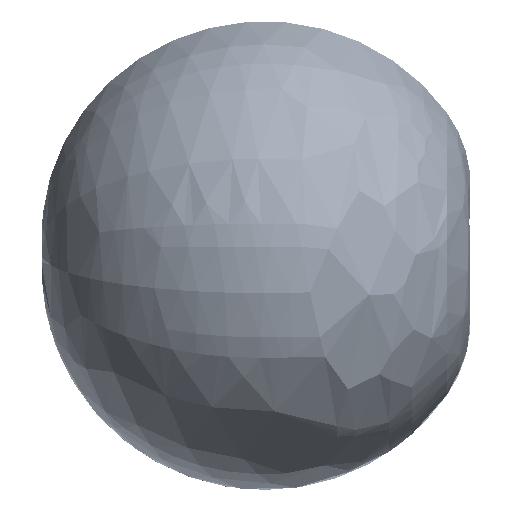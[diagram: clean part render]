
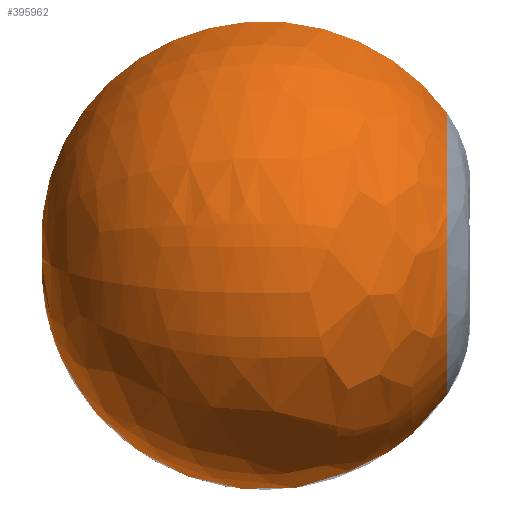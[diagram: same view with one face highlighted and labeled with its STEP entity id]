
A CAD part, left-side view. The second image highlights one B-rep face of the part: STEP entity #395962.
In plain terms, the highlighted free-form (B-spline) face has degree [3, 3] with [7, 4] control points.
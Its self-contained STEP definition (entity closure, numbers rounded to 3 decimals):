
#395788=CARTESIAN_POINT('',(-38.564,537.,
143.923));
#395789=DIRECTION('',(-0.966,0.,-0.259));
#395790=DIRECTION('',(-0.148,-0.819,0.554));
#395791=AXIS2_PLACEMENT_3D('',#395788,#395789,#395790);
#395813=CARTESIAN_POINT('',(0.,-1228.922,
0.));
#395814=DIRECTION('',(0.,1.,0.));
#395815=DIRECTION('',(0.259,0.,0.966));
#395816=AXIS2_PLACEMENT_3D('',#395813,#395814,#395815);
#395818=CARTESIAN_POINT('',(0.,-1228.923,
0.));
#395819=DIRECTION('',(0.,1.,0.));
#395820=DIRECTION('',(0.259,0.,-0.966));
#395821=AXIS2_PLACEMENT_3D('',#395818,#395819,#395820);
#395823=CARTESIAN_POINT('',(38.564,537.,
143.923));
#395824=DIRECTION('',(0.966,0.,-0.259));
#395825=DIRECTION('',(-0.018,0.998,-0.067));
#395826=AXIS2_PLACEMENT_3D('',#395823,#395824,#395825);
#395876=CARTESIAN_POINT('',(-358.597,-1228.922,
1338.302));
#395877=CARTESIAN_POINT('',(0.,2687.638,
0.));
#395878=VERTEX_POINT('',#395876);
#395879=VERTEX_POINT('',#395877);
#395890=CARTESIAN_POINT('',(358.597,-1228.923,
-1338.3));
#395891=VERTEX_POINT('',#395890);
#395892=CARTESIAN_POINT('',(358.597,-1228.922,
1338.302));
#395893=VERTEX_POINT('',#395892);
#395924=CARTESIAN_POINT('',(188.744,-1290.818,
1278.173));
#395925=CARTESIAN_POINT('',(537.679,202.905,
3641.152));
#395926=CARTESIAN_POINT('',(410.561,2882.352,
2780.316));
#395927=CARTESIAN_POINT('',(0.,2687.638,
0.));
#395928=CARTESIAN_POINT('',(2412.497,-1290.818,
949.798));
#395929=CARTESIAN_POINT('',(6872.52,202.905,
2705.704));
#395930=CARTESIAN_POINT('',(5247.729,2882.352,
2066.025));
#395931=CARTESIAN_POINT('',(0.,2687.638,
0.));
#395932=CARTESIAN_POINT('',(2247.868,-1290.818,
-1292.033));
#395933=CARTESIAN_POINT('',(6403.537,202.905,
-3680.636));
#395934=CARTESIAN_POINT('',(4889.622,2882.352,
-2810.466));
#395935=CARTESIAN_POINT('',(0.,2687.638,
0.));
#395936=CARTESIAN_POINT('',(0.,-1290.818,
-1292.033));
#395937=CARTESIAN_POINT('',(0.,202.905,
-3680.636));
#395938=CARTESIAN_POINT('',(0.,2882.352,
-2810.466));
#395939=CARTESIAN_POINT('',(0.,2687.638,
0.));
#395940=CARTESIAN_POINT('',(-2247.868,-1290.818,
-1292.033));
#395941=CARTESIAN_POINT('',(-6403.537,202.905,
-3680.636));
#395942=CARTESIAN_POINT('',(-4889.622,2882.352,
-2810.466));
#395943=CARTESIAN_POINT('',(0.,2687.638,
0.));
#395944=CARTESIAN_POINT('',(-2412.497,-1290.818,
949.798));
#395945=CARTESIAN_POINT('',(-6872.52,202.905,
2705.704));
#395946=CARTESIAN_POINT('',(-5247.729,2882.352,
2066.025));
#395947=CARTESIAN_POINT('',(0.,2687.638,
0.));
#395948=CARTESIAN_POINT('',(-188.744,-1290.818,
1278.173));
#395949=CARTESIAN_POINT('',(-537.679,202.905,
3641.152));
#395950=CARTESIAN_POINT('',(-410.561,2882.352,
2780.316));
#395951=CARTESIAN_POINT('',(0.,2687.638,
0.));
#395952=(BOUNDED_SURFACE()B_SPLINE_SURFACE(3,3,((#395924,#395925,#395926,
#395927),(#395928,#395929,#395930,#395931),(#395932,#395933,#395934,#395935),(
#395936,#395937,#395938,#395939),(#395940,#395941,#395942,#395943),(#395944,
#395945,#395946,#395947),(#395948,#395949,#395950,#395951)),.UNSPECIFIED.,.F.,
.F.,.F.)B_SPLINE_SURFACE_WITH_KNOTS((4,3,4),(4,4),(0.,1.,2.),(0.,1.),
.UNSPECIFIED.)GEOMETRIC_REPRESENTATION_ITEM()RATIONAL_B_SPLINE_SURFACE(((
3.,1.485,1.485,3.),(
1.146,0.567,0.567,1.146),(
1.146,0.567,0.567,1.146),(
3.,1.485,1.485,3.),(
1.146,0.567,0.567,1.146),(
1.146,0.567,0.567,1.146),(
3.,1.485,1.485,3.)))REPRESENTATION_ITEM('')SURFACE());
#395953=ORIENTED_EDGE('',*,*,#395907,.F.);
#395955=ORIENTED_EDGE('',*,*,#395954,.F.);
#395957=ORIENTED_EDGE('',*,*,#395956,.F.);
#395959=ORIENTED_EDGE('',*,*,#395958,.F.);
#395960=EDGE_LOOP('',(#395953,#395955,#395957,#395959));
#395961=FACE_OUTER_BOUND('',#395960,.F.);
#395962=ADVANCED_FACE('',(#395961),#395952,.T.);
#395792=CIRCLE('',#395791,2155.793);
#395817=CIRCLE('',#395816,1385.512);
#395822=CIRCLE('',#395821,1385.51);
#395827=CIRCLE('',#395826,2155.793);
#395907=EDGE_CURVE('',#395878,#395879,#395792,.T.);
#395954=EDGE_CURVE('',#395891,#395878,#395822,.T.);
#395956=EDGE_CURVE('',#395893,#395891,#395817,.T.);
#395958=EDGE_CURVE('',#395879,#395893,#395827,.T.);
